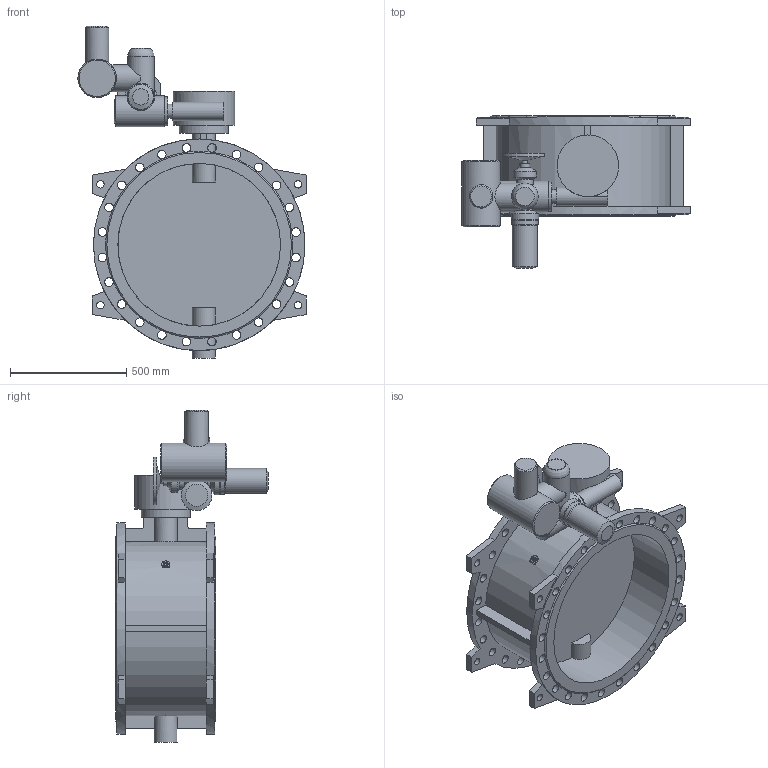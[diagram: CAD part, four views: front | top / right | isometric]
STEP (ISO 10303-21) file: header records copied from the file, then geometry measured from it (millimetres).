
FILE_DESCRIPTION(('STEP AP203'), '1');
FILE_NAME('Çàòâîð 023F.Z DN700 PN16 + ðåäóêòîð + ÌÒ903.À10 ñ ÁÓ', '', ('UNSPECIFIED'), ('UNSPECIFIED'), 'ASCON STEP Converter 1.6', 'ASCON Math Kernel', '');
FILE_SCHEMA(('CONFIG_CONTROL_DESIGN'));
Length unit declared in the file: millimetre
Bounding box: 982 x 655.5 x 1428 mm (x, y, z)
Volume: 91549761.1 mm3; surface area: 4965990.7 mm2
Topology: 1 solids, 1 shells, 242 faces, 739 edges, 486 vertices
Faces by surface type: cylinder 117, plane 111, cone 13, torus 1
Full cylindrical faces by diameter (mm): 8.5 x4, 12 x4, 18.5 x4, 23 x4, 24 x1, 32 x8, 37 x48, 42 x1, 60 x1, 66 x1, 72 x1, 80 x2, 100 x3, 108 x1, 114 x1, 115 x1, 116 x1, 119 x1, 125 x1, 132 x1, 166 x1, 210 x1, 265 x1, 700 x2, 910 x2
Entity records: 14024 total; most frequent: CARTESIAN_POINT 5530, DIRECTION 1372, ORIENTED_EDGE 1250, EDGE_CURVE 625, AXIS2_PLACEMENT_3D 589, VERTEX_POINT 485, EDGE_LOOP 454, CIRCLE 347
